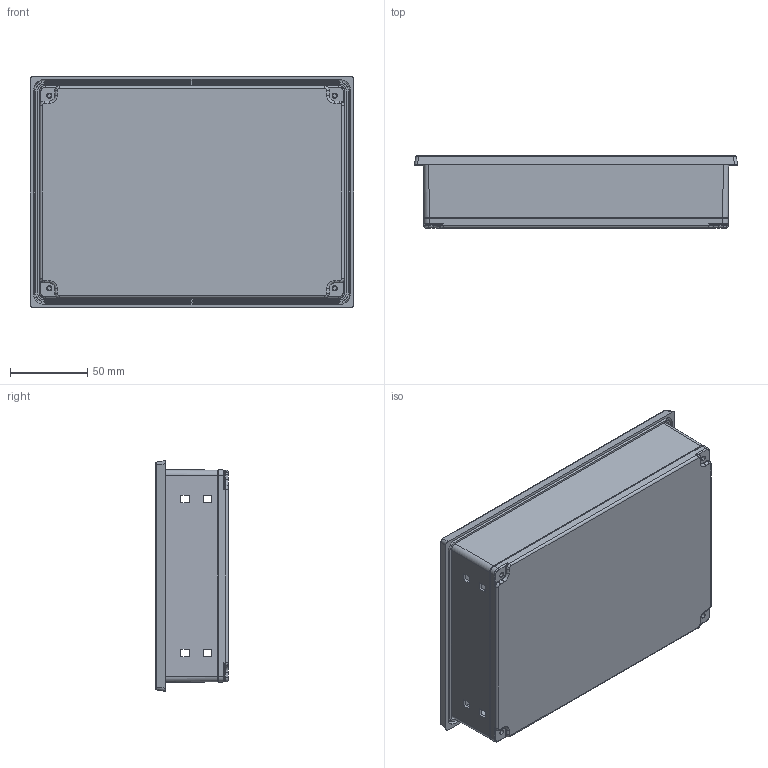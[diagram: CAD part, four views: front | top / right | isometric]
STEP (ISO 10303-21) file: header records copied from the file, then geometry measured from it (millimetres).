
FILE_DESCRIPTION (( 'STEP AP203' ), '1' );
FILE_NAME ('PO358-B.STEP', '2018-10-23T06:27:52', ( '' ), ( '' ), 'SwSTEP 2.0', 'SolidWorks 2018', '' );
FILE_SCHEMA (( 'CONFIG_CONTROL_DESIGN' ));
Length unit declared in the file: millimetre
Products named in the file (3): PO358-B
Assembly tree (2 placements, depth 2):
  PO358-B
    PO358-B
    PO358-B
Bounding box: 209.7 x 46.8 x 149.7 mm (x, y, z)
Volume: 211706.6 mm3; surface area: 202500.7 mm2
Topology: 2 solids, 2 shells, 695 faces, 1844 edges, 1204 vertices
Faces by surface type: plane 419, cylinder 196, cone 44, bspline 32, torus 4
Entity records: 22347 total; most frequent: CARTESIAN_POINT 5436, ORIENTED_EDGE 3688, DIRECTION 3220, EDGE_CURVE 1844, VERTEX_POINT 1204, VECTOR 1164, LINE 1164, AXIS2_PLACEMENT_3D 1028
